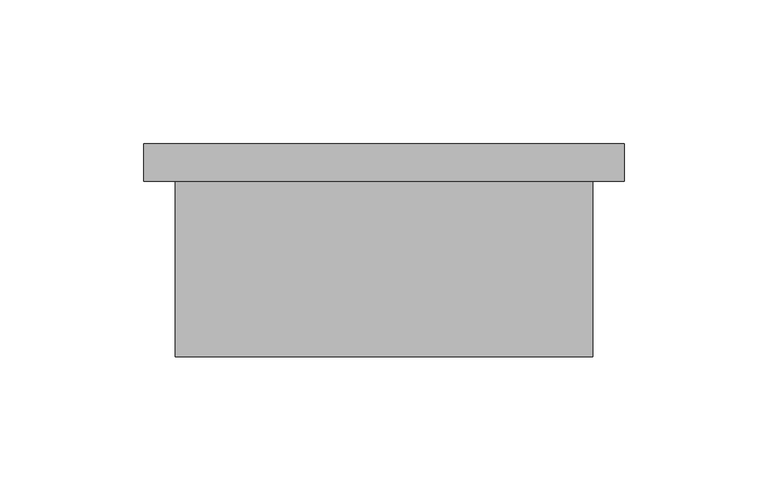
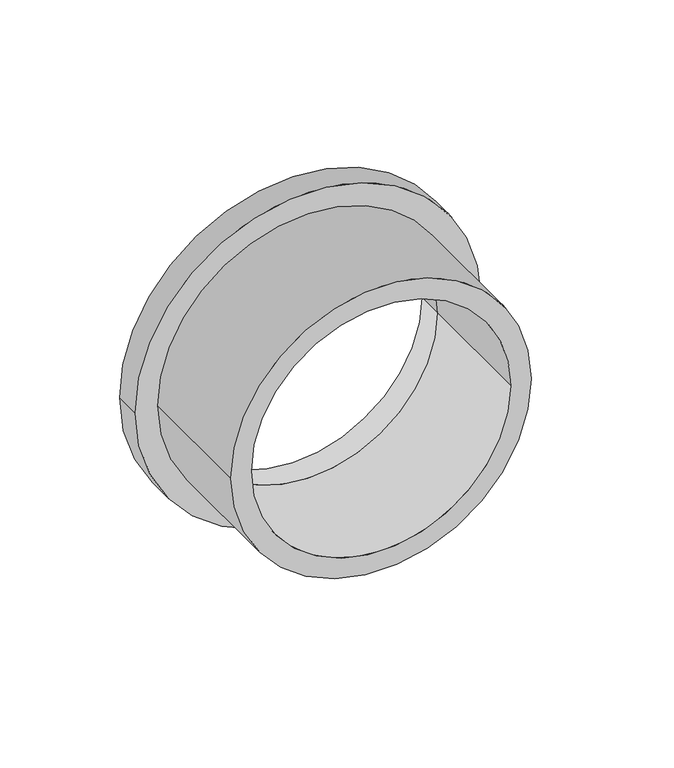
"""IFC4 building model written with IfcOpenShell, lengths in millimetres: pipe fitting geometry, 01051020 : Colarinho."""

from ifc_helpers import new_model, si_unit, point, frame, origin, origin_2d, place, context, project, spatial, circle_curve, trimmed, segment, composite_curve, outline, extrude, source, transform, mapped, element, save


def pipe_fitting_677095fc(model_context):
    return source(origin(), model_context, "Body", "SweptSolid", [
        extrude(outline(composite_curve([segment(trimmed(circle_curve(origin_2d(), 72.5), [point((0.0, -72.5))], [point((0.0, 72.5))], False, "CARTESIAN"), True, "CONTINUOUS"), segment(trimmed(circle_curve(origin_2d(), 72.5), [point((0.0, 72.5))], [point((0.0, -72.5))], False, "CARTESIAN"), True, "CONTINUOUS")], self_intersect=False), holes=[composite_curve([segment(trimmed(circle_curve(origin_2d(), 62.5), [point((0.0, -62.5))], [point((0.0, 62.5))], True, "CARTESIAN"), True, "CONTINUOUS"), segment(trimmed(circle_curve(origin_2d(), 62.5), [point((0.0, 62.5))], [point((0.0, -62.5))], True, "CARTESIAN"), True, "CONTINUOUS")], self_intersect=False)]), frame((0.0, -61.0, 0.0), z_axis=(0.0, 1.0, 0.0), x_axis=(0.0, 0.0, 1.0)), (0.0, 0.0, 1.0), 61.0),
        extrude(outline(composite_curve([segment(trimmed(circle_curve(origin_2d(), 83.5), [point((0.0, -83.5))], [point((0.0, 83.5))], False, "CARTESIAN"), True, "CONTINUOUS"), segment(trimmed(circle_curve(origin_2d(), 83.5), [point((0.0, 83.5))], [point((0.0, -83.5))], False, "CARTESIAN"), True, "CONTINUOUS")], self_intersect=False), holes=[composite_curve([segment(trimmed(circle_curve(origin_2d(), 62.5), [point((0.0, -62.5))], [point((0.0, 62.5))], True, "CARTESIAN"), True, "CONTINUOUS"), segment(trimmed(circle_curve(origin_2d(), 62.5), [point((0.0, 62.5))], [point((0.0, -62.5))], True, "CARTESIAN"), True, "CONTINUOUS")], self_intersect=False)]), frame((0.0, 0.0, 0.0), z_axis=(0.0, 1.0, 0.0), x_axis=(0.0, 0.0, 1.0)), (0.0, 0.0, 1.0), 13.0),
    ])


if __name__ == "__main__":
    model = new_model("IFC4")
    model_context = context("Model", 3, world=origin())
    ifc_project = project(units=[si_unit("LENGTHUNIT", "METRE", prefix="MILLI")], contexts=[model_context])
    site = spatial("IfcSite", under=ifc_project)
    building = spatial("IfcBuilding", under=site)
    placement = place(None, origin())
    pipe_fitting_shape = pipe_fitting_677095fc(model_context)
    element("IfcPipeFitting", 1, ObjectType="01051020 : Colarinho", at=placement, inside=building, context=model_context, shape_type="MappedRepresentation", body=[
        mapped(pipe_fitting_shape, transform((0.0, 0.0, 0.0), x_axis=(1.0, 0.0, 0.0), y_axis=(0.0, 1.0, 0.0), z_axis=(0.0, 0.0, 1.0))),
    ])
    save(model, "model.ifc")
